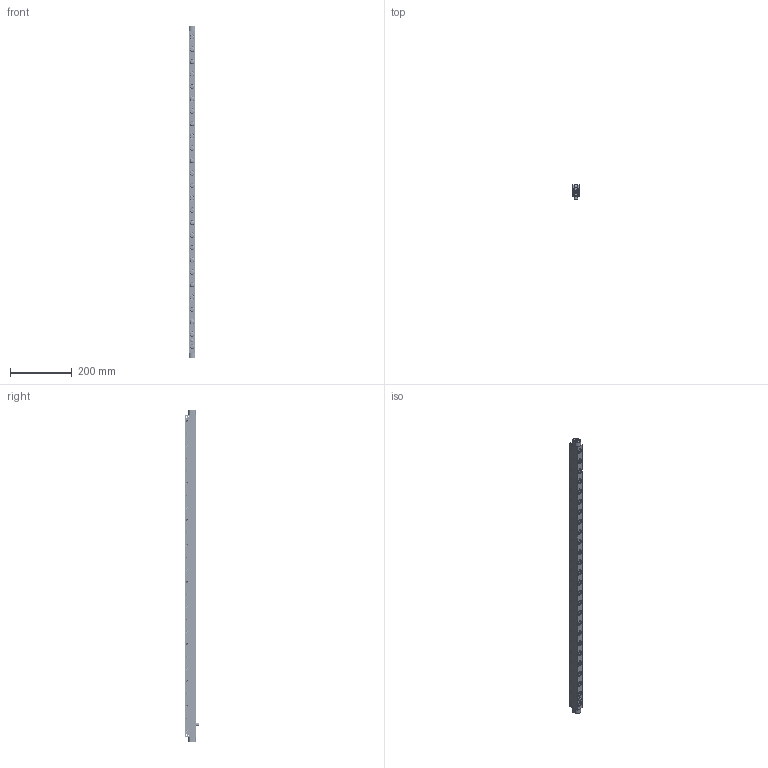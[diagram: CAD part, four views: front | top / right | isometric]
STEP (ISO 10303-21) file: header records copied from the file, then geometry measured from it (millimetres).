
FILE_DESCRIPTION(/* description */ (''),/* implementation_level */ '2;1');
FILE_NAME(/* name */ 'S:\EASCN Vault\Designs\Standard Part\DIE LIFTERS\EHR\EHR- 3D step\EHR22-C - 3D step complete serie\EHR22-26-C.stp',/* time_stamp */ '2019-09-06T13:51:59+08:00',/* author */ ('yue.yang'),/* organization */ (''),/* preprocessor_version */ 'ST-DEVELOPER v17',/* originating_system */ 'Autodesk Inventor 2019',/* authorisation */ '');
FILE_SCHEMA (('AUTOMOTIVE_DESIGN { 1 0 10303 214 3 1 1 }'));
Products named in the file (1): EHR22-26-C_Shrinkwrap_1
Bounding box: 21.8 x 48.05 x 1072 mm (x, y, z)
Volume: 650973.3 mm3; surface area: 248466.7 mm2
Topology: 8 solids, 8 shells, 1552 faces, 4596 edges, 3162 vertices
Faces by surface type: cylinder 531, plane 399, cone 290, torus 277, sphere 53, bspline 2
Full cylindrical faces by diameter (mm): 3 x10, 3.2 x8, 4 x8, 5 x104, 6 x35, 8.566 x2, 10 x3, 11 x26, 12.5 x52, 13.4 x26, 13.8 x26, 15.95 x52, 16 x69
Entity records: 58776 total; most frequent: CARTESIAN_POINT 13352, DIRECTION 10130, ORIENTED_EDGE 9124, EDGE_CURVE 4562, AXIS2_PLACEMENT_3D 4524, VERTEX_POINT 3162, CIRCLE 2971, EDGE_LOOP 1888
